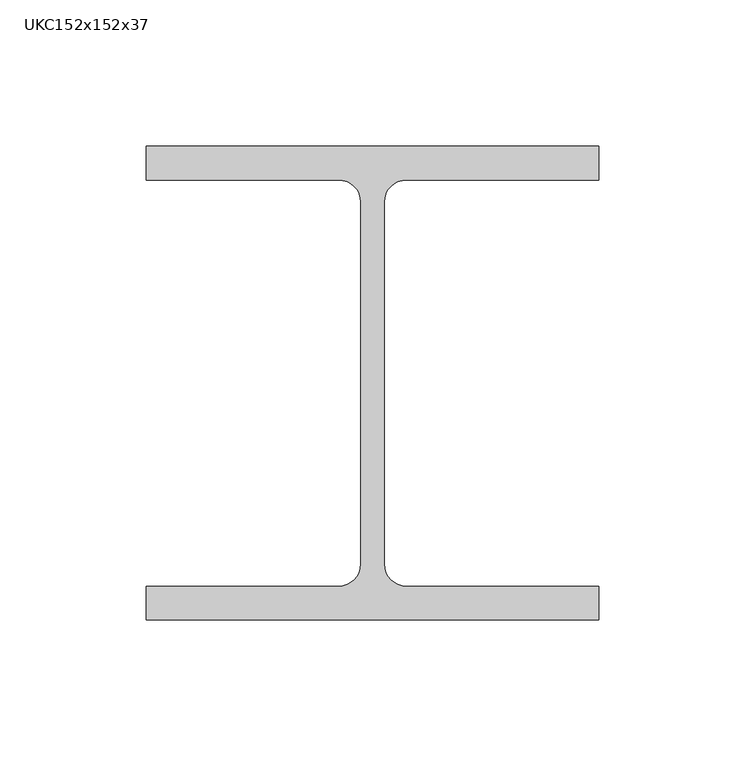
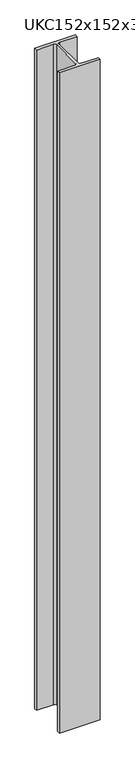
"""IFC4 building model written with IfcOpenShell, lengths in millimetres: column geometry, UKC-UK Columns-Column : UKC152x152x37."""

from ifc_helpers import new_model, si_unit, point, frame, frame_2d, origin, place, context, project, spatial, polyline, circle_curve, trimmed, segment, composite_curve, outline, extrude, source, transform, mapped, element, save


def ukc152x152x37_75c2c72e(model_context):
    return source(origin(), model_context, "Body", "SweptSolid", [
        extrude(outline(composite_curve([segment(polyline([(77.2, 80.9), (77.2, 69.4), (11.6, 69.4)]), True, "CONTINUOUS"), segment(trimmed(circle_curve(frame_2d((11.6, 61.8)), 7.6), [point((11.6, 69.4))], [point((4.0, 61.8))], True, "CARTESIAN"), True, "CONTINUOUS"), segment(polyline([(4.0, 61.8), (4.0, -61.8)]), True, "CONTINUOUS"), segment(trimmed(circle_curve(frame_2d((11.6, -61.8)), 7.6), [point((4.0, -61.8))], [point((11.6, -69.4))], True, "CARTESIAN"), True, "CONTINUOUS"), segment(polyline([(11.6, -69.4), (77.2, -69.4), (77.2, -80.9), (-77.2, -80.9), (-77.2, -69.4), (-11.6, -69.4)]), True, "CONTINUOUS"), segment(trimmed(circle_curve(frame_2d((-11.6, -61.8)), 7.6), [point((-11.6, -69.4))], [point((-4.0, -61.8))], True, "CARTESIAN"), True, "CONTINUOUS"), segment(polyline([(-4.0, -61.8), (-4.0, 61.8)]), True, "CONTINUOUS"), segment(trimmed(circle_curve(frame_2d((-11.6, 61.8)), 7.6), [point((-4.0, 61.8))], [point((-11.6, 69.4))], True, "CARTESIAN"), True, "CONTINUOUS"), segment(polyline([(-11.6, 69.4), (-77.2, 69.4), (-77.2, 80.9), (77.2, 80.9)]), True, "CONTINUOUS")], self_intersect=False)), frame((0.0, 0.0, -53.0), z_axis=(0.0, 0.0, 1.0), x_axis=(1.0, 0.0, 0.0)), (0.0, 0.0, 1.0), 2645.0),
    ])


if __name__ == "__main__":
    model = new_model("IFC4")
    model_context = context("Model", 3, world=origin())
    ifc_project = project(units=[si_unit("LENGTHUNIT", "METRE", prefix="MILLI")], contexts=[model_context])
    site = spatial("IfcSite", under=ifc_project)
    building = spatial("IfcBuilding", under=site)
    placement = place(None, origin())
    ukc152x152x37_shape = ukc152x152x37_75c2c72e(model_context)
    element("IfcColumn", 1, ObjectType="UKC-UK Columns-Column : UKC152x152x37", at=placement, inside=building, context=model_context, shape_type="MappedRepresentation", body=[
        mapped(ukc152x152x37_shape, transform((0.0, 0.0, 0.0), x_axis=(1.0, 0.0, 0.0), y_axis=(0.0, 1.0, 0.0), z_axis=(0.0, 0.0, 1.0))),
    ])
    save(model, "model.ifc")
